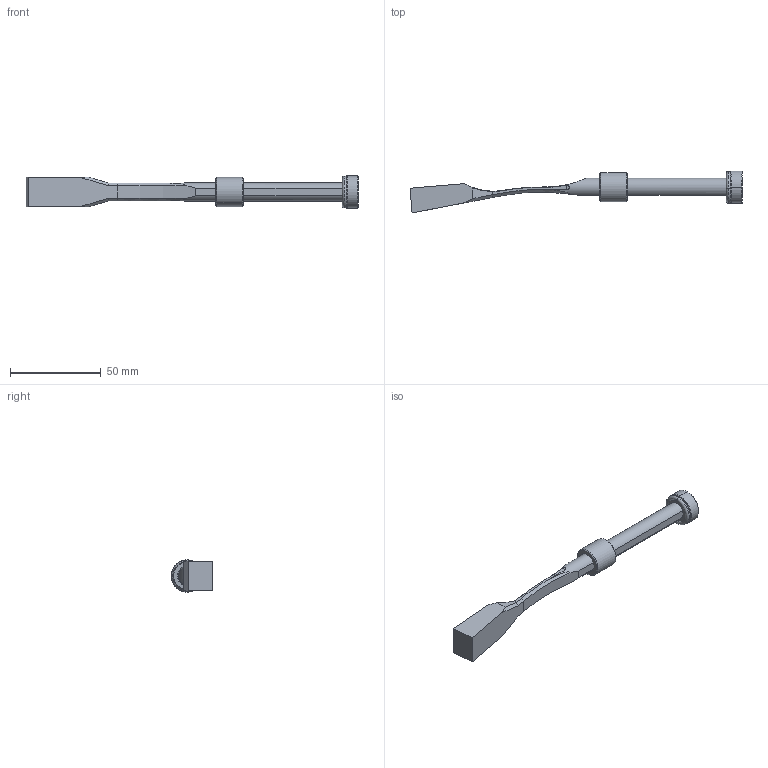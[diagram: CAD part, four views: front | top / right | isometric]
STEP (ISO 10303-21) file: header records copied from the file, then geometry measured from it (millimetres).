
FILE_DESCRIPTION (( 'STEP AP214' ), '1' );
FILE_NAME ('PW101630.STEP', '2020-02-10T08:49:31', ( '' ), ( '' ), 'SwSTEP 2.0', 'SolidWorks 2018', '' );
FILE_SCHEMA (( 'AUTOMOTIVE_DESIGN' ));
Length unit declared in the file: millimetre
Products named in the file (6): 3JT12.5X2.5X17.5; 9PW101630; 1DIN7984616_DIN 7984 - M6 x 16 --- 16C; PW101630; 9CS101615; 9FP1808M6
Assembly tree (5 placements, depth 2):
  PW101630
    9PW101630
    9CS101615
    9FP1808M6
    3JT12.5X2.5X17.5
    1DIN7984616_DIN 7984 - M6 x 16 --- 16C
Bounding box: 182.5 x 22.96 x 17.8 mm (x, y, z)
Volume: 18246.9 mm3; surface area: 10386.6 mm2
Topology: 5 solids, 5 shells, 108 faces, 245 edges, 146 vertices
Faces by surface type: plane 38, cone 28, cylinder 24, torus 16, bspline 2
Entity records: 3599 total; most frequent: CARTESIAN_POINT 717, DIRECTION 557, ORIENTED_EDGE 482, EDGE_CURVE 241, AXIS2_PLACEMENT_3D 224, VERTEX_POINT 146, EDGE_LOOP 117, CIRCLE 110
